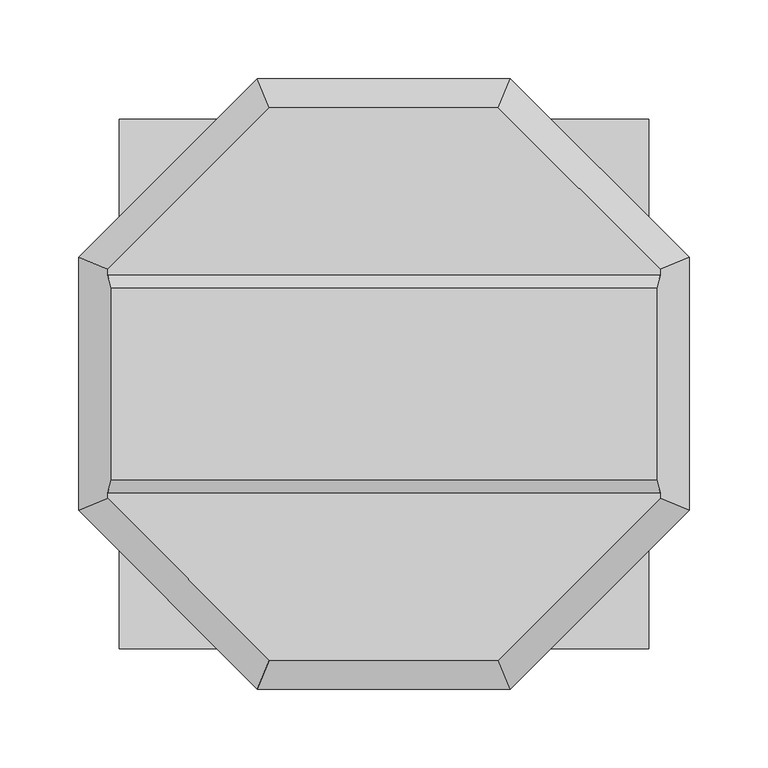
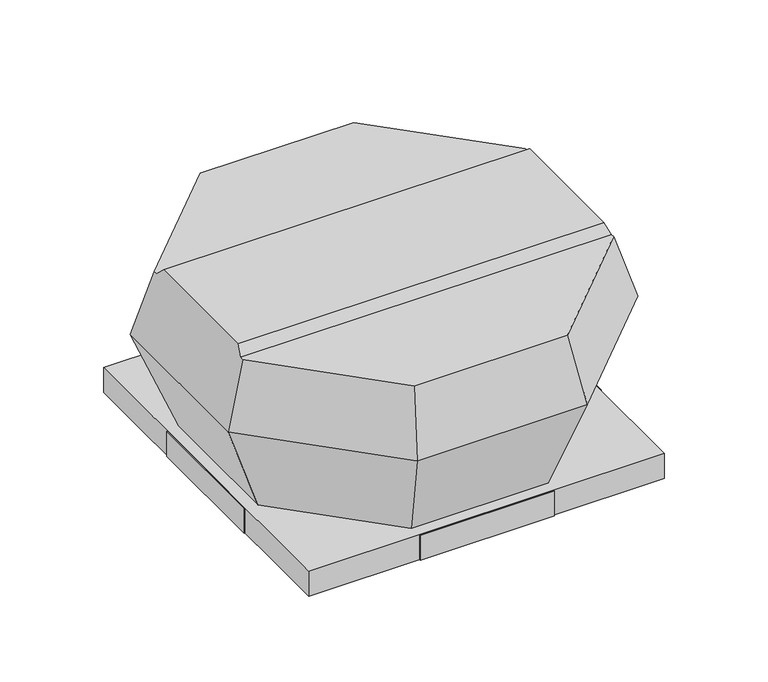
"""IFC4 building model written with IfcOpenShell, lengths in millimetres: unitary equipment geometry, VE-Wentylator-ParaForma-Harmann-VIVER_EC-Wywiewny : 2-220/950EC."""

from ifc_helpers import new_model, si_unit, origin, place, context, project, spatial, faceted_brep, source, transform, mapped, element, save


def unitary_equipment_1564ad7d(model_context):
    return source(origin(), model_context, "Body", "Brep", [
        faceted_brep([(173.439029, -61.0, 166.2), (173.439029, 61.0, 166.2), (-173.439029, 61.0, 166.2), (-173.439029, -61.0, 166.2), (175.875458, 69.1, 158.1), (-175.875458, 69.1, 158.1), (175.875458, -69.1, 158.1), (-175.875458, -69.1, 158.1), (72.85, -175.875458, 158.1), (175.875458, -72.85, 158.1), (-175.875458, -72.85, 158.1), (-72.85, -175.875458, 158.1), (175.875458, 72.85, 158.1), (72.85, 175.875458, 158.1), (-72.85, 175.875458, 158.1), (-175.875458, 72.85, 158.1), (80.5, -194.3441918, 96.7), (194.3441918, -80.5, 96.7), (194.3441918, 80.5, 96.7), (80.5, 194.3441918, 96.7), (-80.5, 194.3441918, 96.7), (-194.3441918, 80.5, 96.7), (-194.3441918, -80.5, 96.7), (-80.5, -194.3441918, 96.7), (65.1, -157.1653029, 1.0), (-65.1, -157.1653029, 1.0), (-157.1653029, -65.1, 1.0), (-157.1653029, 65.1, 1.0), (-65.1, 157.1653029, 1.0), (65.1, 157.1653029, 1.0), (157.1653029, 65.1, 1.0), (157.1653029, -65.1, 1.0)], [[[0, 1, 2, 3]], [[1, 4, 5, 2]], [[6, 0, 3, 7]], [[8, 9, 6, 7, 10, 11]], [[12, 13, 14, 15, 5, 4]], [[9, 8, 16, 17]], [[9, 17, 18, 12, 4, 1, 0, 6]], [[13, 12, 18, 19]], [[14, 13, 19, 20]], [[15, 14, 20, 21]], [[15, 21, 22, 10, 7, 3, 2, 5]], [[11, 10, 22, 23]], [[8, 11, 23, 16]], [[24, 25, 26, 27, 28, 29, 30, 31]], [[24, 31, 17, 16]], [[31, 30, 18, 17]], [[30, 29, 19, 18]], [[29, 28, 20, 19]], [[28, 27, 21, 20]], [[27, 26, 22, 21]], [[26, 25, 23, 22]], [[25, 24, 16, 23]]]),
        faceted_brep([(167.5, 167.5, -24.0), (167.5, 167.5, 0.0), (-167.5, 167.5, 0.0), (-167.5, 167.5, -24.0), (168.5, 168.5, 1.0), (168.5, 168.5, -24.0), (-168.5, 168.5, -24.0), (-168.5, 168.5, 1.0), (-167.5, -167.5, 0.0), (-167.5, -167.5, -24.0), (-168.5, -168.5, -24.0), (-168.5, -168.5, 1.0), (167.5, -167.5, 0.0), (167.5, -167.5, -24.0), (168.5, -168.5, -24.0), (168.5, -168.5, 1.0)], [[[0, 1, 2, 3]], [[4, 5, 6, 7]], [[3, 2, 8, 9]], [[7, 6, 10, 11]], [[9, 8, 12, 13]], [[11, 10, 14, 15]], [[13, 12, 1, 0]], [[5, 14, 10, 6], [3, 9, 13, 0]], [[15, 14, 5, 4]], [[7, 11, 15, 4]], [[1, 12, 8, 2]]]),
        faceted_brep([(-168.5, -63.7, -24.0), (-169.5, -63.7, -24.0), (-169.5, 63.7, -24.0), (-168.5, 63.7, -24.0), (-168.5, -63.7, 1.0), (-168.5, 63.7, 1.0), (-169.5, 63.7, 1.0), (-169.5, -63.7, 1.0)], [[[0, 1, 2, 3]], [[4, 5, 6, 7]], [[1, 0, 4, 7]], [[2, 1, 7, 6]], [[3, 2, 6, 5]], [[0, 3, 5, 4]]]),
        faceted_brep([(169.5, -63.7, -24.0), (168.5, -63.7, -24.0), (168.5, 63.7, -24.0), (169.5, 63.7, -24.0), (169.5, 63.7, 1.0), (168.5, 63.7, 1.0), (168.5, 5.0, 1.0), (168.5, -5.0, 1.0), (168.5, -63.7, 1.0), (169.5, -63.7, 1.0), (169.5, -5.0, 1.0), (169.5, 5.0, 1.0)], [[[0, 1, 2, 3]], [[4, 5, 6, 7, 8, 9, 10, 11]], [[1, 0, 9, 8]], [[2, 1, 8, 7, 6, 5]], [[3, 2, 5, 4]], [[0, 3, 4, 11, 10, 9]]]),
        faceted_brep([(63.7, 168.5, -24.0), (-63.7, 168.5, -24.0), (-63.7, 169.5, -24.0), (63.7, 169.5, -24.0), (63.7, 168.5, 1.0), (63.7, 169.5, 1.0), (-63.7, 169.5, 1.0), (-63.7, 168.5, 1.0)], [[[0, 1, 2, 3]], [[4, 5, 6, 7]], [[1, 0, 4, 7]], [[2, 1, 7, 6]], [[3, 2, 6, 5]], [[0, 3, 5, 4]]]),
        faceted_brep([(63.7, -169.5, -24.0), (-63.7, -169.5, -24.0), (-63.7, -168.5, -24.0), (63.7, -168.5, -24.0), (63.7, -169.5, 1.0), (63.7, -168.5, 1.0), (-63.7, -168.5, 1.0), (-63.7, -169.5, 1.0)], [[[0, 1, 2, 3]], [[4, 5, 6, 7]], [[1, 0, 4, 7]], [[2, 1, 7, 6]], [[3, 2, 6, 5]], [[0, 3, 5, 4]]]),
    ])


if __name__ == "__main__":
    model = new_model("IFC4")
    model_context = context("Model", 3, world=origin())
    ifc_project = project(units=[si_unit("LENGTHUNIT", "METRE", prefix="MILLI")], contexts=[model_context])
    site = spatial("IfcSite", under=ifc_project)
    building = spatial("IfcBuilding", under=site)
    placement = place(None, origin())
    unitary_equipment_shape = unitary_equipment_1564ad7d(model_context)
    element("IfcUnitaryEquipment", 1, ObjectType="VE-Wentylator-ParaForma-Harmann-VIVER_EC-Wywiewny : 2-220/950EC", at=placement, inside=building, context=model_context, shape_type="MappedRepresentation", body=[
        mapped(unitary_equipment_shape, transform((0.0, 0.0, 0.0), x_axis=(1.0, 0.0, 0.0), y_axis=(0.0, 1.0, 0.0), z_axis=(0.0, 0.0, 1.0))),
    ])
    save(model, "model.ifc")
